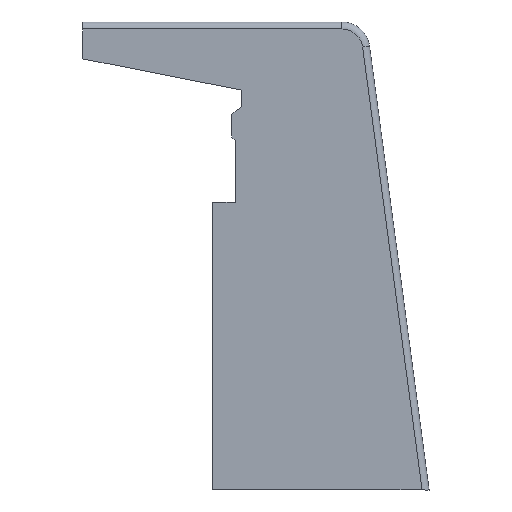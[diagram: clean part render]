
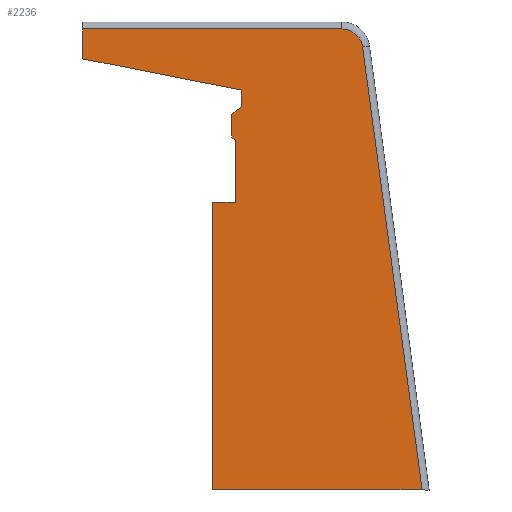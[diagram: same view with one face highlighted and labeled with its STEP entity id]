
A CAD part, front view. The second image highlights one B-rep face of the part: STEP entity #2236.
In plain terms, the highlighted planar face has unit normal (0, -1, 0).
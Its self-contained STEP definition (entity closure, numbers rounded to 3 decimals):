
#86 = CIRCLE ( 'NONE', #1071, 1.5 ) ;
#89 = ORIENTED_EDGE ( 'NONE', *, *, #1936, .F. ) ;
#129 = DIRECTION ( 'NONE',  ( -0.981, 0., 0.193 ) ) ;
#149 = LINE ( 'NONE', #836, #2787 ) ;
#151 = EDGE_CURVE ( 'NONE', #1215, #2016, #2924, .T. ) ;
#199 = DIRECTION ( 'NONE',  ( 1., 0., 0. ) ) ;
#208 = VERTEX_POINT ( 'NONE', #2287 ) ;
#349 = VECTOR ( 'NONE', #1624, 1000. ) ;
#401 = AXIS2_PLACEMENT_3D ( 'NONE', #2000, #521, #2275 ) ;
#457 = CARTESIAN_POINT ( 'NONE',  ( 36.939, 270.875, 33.821 ) ) ;
#459 = DIRECTION ( 'NONE',  ( 0., 0., 1. ) ) ;
#482 = CARTESIAN_POINT ( 'NONE',  ( 36.67, 270.875, 40.362 ) ) ;
#483 = LINE ( 'NONE', #1491, #2584 ) ;
#490 = EDGE_CURVE ( 'NONE', #2794, #2932, #780, .T. ) ;
#521 = DIRECTION ( 'NONE',  ( 0., -1., 0. ) ) ;
#541 = CARTESIAN_POINT ( 'NONE',  ( 35.039, 270.875, 31.671 ) ) ;
#549 = AXIS2_PLACEMENT_3D ( 'NONE', #1236, #1999, #1788 ) ;
#571 = ORIENTED_EDGE ( 'NONE', *, *, #2933, .F. ) ;
#635 = DIRECTION ( 'NONE',  ( -1., 0., 0. ) ) ;
#643 = DIRECTION ( 'NONE',  ( 0., 1., 0. ) ) ;
#677 = CARTESIAN_POINT ( 'NONE',  ( 25.739, 270.875, 46.28 ) ) ;
#710 = EDGE_CURVE ( 'NONE', #1117, #2389, #2767, .T. ) ;
#748 = CARTESIAN_POINT ( 'NONE',  ( 37.139, 270.875, 41.887 ) ) ;
#780 = LINE ( 'NONE', #1894, #808 ) ;
#808 = VECTOR ( 'NONE', #1656, 1000. ) ;
#813 = VECTOR ( 'NONE', #3085, 1000. ) ;
#836 = CARTESIAN_POINT ( 'NONE',  ( 57.239, 270.875, 13.171 ) ) ;
#880 = CARTESIAN_POINT ( 'NONE',  ( 57.239, 270.875, 47.671 ) ) ;
#913 = CARTESIAN_POINT ( 'NONE',  ( 37.139, 270.875, 31.671 ) ) ;
#1071 = AXIS2_PLACEMENT_3D ( 'NONE', #1706, #2696, #3197 ) ;
#1073 = DIRECTION ( 'NONE',  ( 0., 0., 1. ) ) ;
#1074 = ORIENTED_EDGE ( 'NONE', *, *, #710, .F. ) ;
#1080 = VERTEX_POINT ( 'NONE', #677 ) ;
#1095 = ORIENTED_EDGE ( 'NONE', *, *, #1717, .T. ) ;
#1117 = VERTEX_POINT ( 'NONE', #2643 ) ;
#1132 = DIRECTION ( 'NONE',  ( 0., 0., 1. ) ) ;
#1164 = LINE ( 'NONE', #913, #349 ) ;
#1198 = DIRECTION ( 'NONE',  ( 0., -1., 0. ) ) ;
#1215 = VERTEX_POINT ( 'NONE', #1744 ) ;
#1226 = CARTESIAN_POINT ( 'NONE',  ( 37.139, 270.875, 40.689 ) ) ;
#1236 = CARTESIAN_POINT ( 'NONE',  ( 37.398, 270.875, 39.335 ) ) ;
#1395 = FACE_OUTER_BOUND ( 'NONE', #1839, .T. ) ;
#1400 = CARTESIAN_POINT ( 'NONE',  ( 36.689, 270.875, 33.821 ) ) ;
#1434 = ORIENTED_EDGE ( 'NONE', *, *, #2796, .F. ) ;
#1491 = CARTESIAN_POINT ( 'NONE',  ( 36.689, 270.875, 39.586 ) ) ;
#1521 = CARTESIAN_POINT ( 'NONE',  ( 45.827, 270.875, 44.98 ) ) ;
#1532 = DIRECTION ( 'NONE',  ( 0., 0., 1. ) ) ;
#1583 = VECTOR ( 'NONE', #1532, 1000. ) ;
#1624 = DIRECTION ( 'NONE',  ( 0., 0., 1. ) ) ;
#1645 = EDGE_CURVE ( 'NONE', #1215, #208, #1953, .T. ) ;
#1656 = DIRECTION ( 'NONE',  ( -0.133, 0., 0.991 ) ) ;
#1706 = CARTESIAN_POINT ( 'NONE',  ( 44.341, 270.875, 44.78 ) ) ;
#1715 = PLANE ( 'NONE',  #2837 ) ;
#1717 = EDGE_CURVE ( 'NONE', #2033, #1080, #2797, .T. ) ;
#1718 = EDGE_CURVE ( 'NONE', #2938, #2485, #3072, .T. ) ;
#1719 = CARTESIAN_POINT ( 'NONE',  ( 36.439, 270.875, 40.151 ) ) ;
#1744 = CARTESIAN_POINT ( 'NONE',  ( 36.439, 270.875, 38.519 ) ) ;
#1788 = DIRECTION ( 'NONE',  ( 0., 0., 1. ) ) ;
#1839 = EDGE_LOOP ( 'NONE', ( #2088, #3150, #571, #89, #1074, #1434, #2740, #1922, #1095, #2771, #3099, #2911, #2322, #2364 ) ) ;
#1842 = EDGE_CURVE ( 'NONE', #2237, #2087, #3147, .T. ) ;
#1877 = EDGE_CURVE ( 'NONE', #2237, #2938, #1164, .T. ) ;
#1894 = CARTESIAN_POINT ( 'NONE',  ( 45.636, 270.875, 46.402 ) ) ;
#1899 = VECTOR ( 'NONE', #129, 1000. ) ;
#1922 = ORIENTED_EDGE ( 'NONE', *, *, #2058, .T. ) ;
#1936 = EDGE_CURVE ( 'NONE', #2389, #2886, #1948, .T. ) ;
#1948 = LINE ( 'NONE', #457, #2939 ) ;
#1953 = CIRCLE ( 'NONE', #549, 1.259 ) ;
#1999 = DIRECTION ( 'NONE',  ( 0., -1., 0. ) ) ;
#2000 = CARTESIAN_POINT ( 'NONE',  ( 37.398, 270.875, 39.335 ) ) ;
#2008 = CIRCLE ( 'NONE', #401, 1.259 ) ;
#2016 = VERTEX_POINT ( 'NONE', #1719 ) ;
#2033 = VERTEX_POINT ( 'NONE', #2224 ) ;
#2058 = EDGE_CURVE ( 'NONE', #2932, #2033, #86, .T. ) ;
#2081 = LINE ( 'NONE', #2798, #2425 ) ;
#2087 = VERTEX_POINT ( 'NONE', #482 ) ;
#2088 = ORIENTED_EDGE ( 'NONE', *, *, #151, .F. ) ;
#2111 = CARTESIAN_POINT ( 'NONE',  ( 37.332, 270.875, 41.849 ) ) ;
#2125 = CARTESIAN_POINT ( 'NONE',  ( 57.588, 270.875, 10.837 ) ) ;
#2180 = CARTESIAN_POINT ( 'NONE',  ( 25.739, 270.875, 44.134 ) ) ;
#2224 = CARTESIAN_POINT ( 'NONE',  ( 44.341, 270.875, 46.28 ) ) ;
#2236 = ADVANCED_FACE ( 'NONE', ( #1395 ), #1715, .F. ) ;
#2237 = VERTEX_POINT ( 'NONE', #1226 ) ;
#2275 = DIRECTION ( 'NONE',  ( 0., 0., 1. ) ) ;
#2287 = CARTESIAN_POINT ( 'NONE',  ( 36.689, 270.875, 38.294 ) ) ;
#2322 = ORIENTED_EDGE ( 'NONE', *, *, #1842, .T. ) ;
#2353 = CARTESIAN_POINT ( 'NONE',  ( 22.239, 270.875, 46.28 ) ) ;
#2364 = ORIENTED_EDGE ( 'NONE', *, *, #2609, .T. ) ;
#2389 = VERTEX_POINT ( 'NONE', #2750 ) ;
#2425 = VECTOR ( 'NONE', #1073, 1000. ) ;
#2485 = VERTEX_POINT ( 'NONE', #2180 ) ;
#2524 = AXIS2_PLACEMENT_3D ( 'NONE', #2125, #1198, #2907 ) ;
#2584 = VECTOR ( 'NONE', #2725, 1000. ) ;
#2609 = EDGE_CURVE ( 'NONE', #2087, #2016, #2008, .T. ) ;
#2643 = CARTESIAN_POINT ( 'NONE',  ( 35.039, 270.875, 13.171 ) ) ;
#2683 = CARTESIAN_POINT ( 'NONE',  ( 36.439, 270.875, 36.929 ) ) ;
#2696 = DIRECTION ( 'NONE',  ( 0., -1., 0. ) ) ;
#2725 = DIRECTION ( 'NONE',  ( 0., 0., 1. ) ) ;
#2740 = ORIENTED_EDGE ( 'NONE', *, *, #490, .T. ) ;
#2750 = CARTESIAN_POINT ( 'NONE',  ( 35.039, 270.875, 33.821 ) ) ;
#2754 = EDGE_CURVE ( 'NONE', #2485, #1080, #2081, .T. ) ;
#2767 = LINE ( 'NONE', #541, #1583 ) ;
#2771 = ORIENTED_EDGE ( 'NONE', *, *, #2754, .F. ) ;
#2787 = VECTOR ( 'NONE', #635, 1000. ) ;
#2794 = VERTEX_POINT ( 'NONE', #2863 ) ;
#2796 = EDGE_CURVE ( 'NONE', #2794, #1117, #149, .T. ) ;
#2797 = LINE ( 'NONE', #2353, #813 ) ;
#2798 = CARTESIAN_POINT ( 'NONE',  ( 25.739, 270.875, 47.671 ) ) ;
#2837 = AXIS2_PLACEMENT_3D ( 'NONE', #880, #643, #1132 ) ;
#2863 = CARTESIAN_POINT ( 'NONE',  ( 50.096, 270.875, 13.171 ) ) ;
#2886 = VERTEX_POINT ( 'NONE', #1400 ) ;
#2907 = DIRECTION ( 'NONE',  ( 0., 0., 1. ) ) ;
#2911 = ORIENTED_EDGE ( 'NONE', *, *, #1877, .F. ) ;
#2924 = LINE ( 'NONE', #2683, #3086 ) ;
#2932 = VERTEX_POINT ( 'NONE', #1521 ) ;
#2933 = EDGE_CURVE ( 'NONE', #2886, #208, #483, .T. ) ;
#2938 = VERTEX_POINT ( 'NONE', #748 ) ;
#2939 = VECTOR ( 'NONE', #199, 1000. ) ;
#3072 = LINE ( 'NONE', #2111, #1899 ) ;
#3085 = DIRECTION ( 'NONE',  ( -1., 0., 0. ) ) ;
#3086 = VECTOR ( 'NONE', #459, 1000. ) ;
#3099 = ORIENTED_EDGE ( 'NONE', *, *, #1718, .F. ) ;
#3147 = CIRCLE ( 'NONE', #2524, 36.184 ) ;
#3150 = ORIENTED_EDGE ( 'NONE', *, *, #1645, .T. ) ;
#3197 = DIRECTION ( 'NONE',  ( 0., 0., 1. ) ) ;
